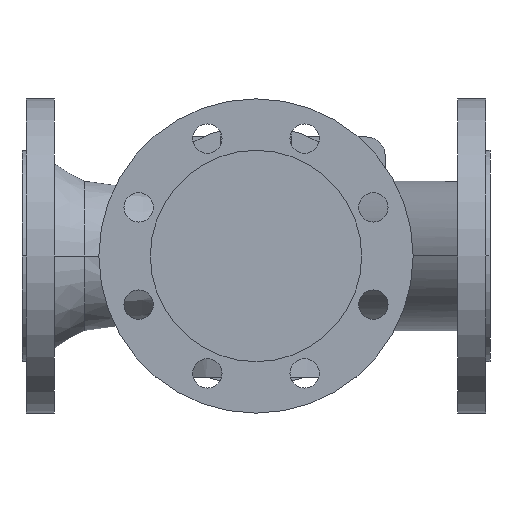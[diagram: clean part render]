
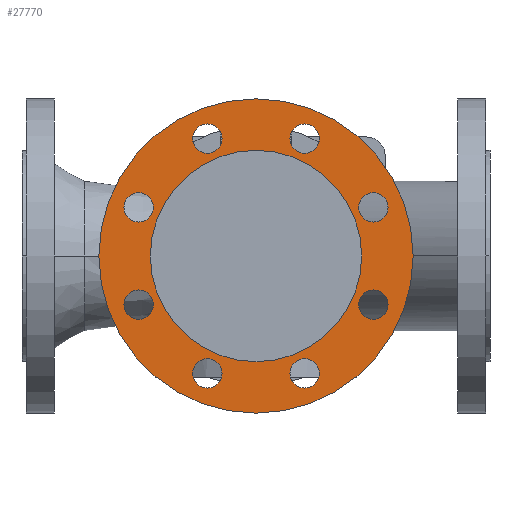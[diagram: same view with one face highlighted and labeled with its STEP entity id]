
A CAD part, front view. The second image highlights one B-rep face of the part: STEP entity #27770.
In plain terms, the highlighted planar face has unit normal (0, -1, 0).
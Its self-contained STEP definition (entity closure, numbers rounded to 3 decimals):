
#4020=CARTESIAN_POINT('',(254.,-147.,0.));
#4030=VERTEX_POINT('',#4020);
#4080=CARTESIAN_POINT('',(175.,-147.,0.));
#4090=DIRECTION('',(0.,-1.,0.));
#4100=DIRECTION('',(1.,0.,0.));
#4110=AXIS2_PLACEMENT_3D('',#4080,#4090,#4100);
#4120=CIRCLE('',#4110,79.);
#4130=CARTESIAN_POINT('',(96.,-147.,0.));
#4140=VERTEX_POINT('',#4130);
#4150=EDGE_CURVE('',#4140,#4030,#4120,.T.);
#11130=CARTESIAN_POINT('',(57.5,-147.,0.));
#11140=VERTEX_POINT('',#11130);
#11170=CARTESIAN_POINT('',(175.,-147.,0.));
#11180=DIRECTION('',(0.,1.,0.));
#11190=DIRECTION('',(1.,0.,0.));
#11200=AXIS2_PLACEMENT_3D('',#11170,#11180,#11190);
#11210=CIRCLE('',#11200,117.5);
#11220=CARTESIAN_POINT('',(292.5,-147.,0.));
#11230=VERTEX_POINT('',#11220);
#11240=EDGE_CURVE('',#11230,#11140,#11210,.T.);
#11550=CARTESIAN_POINT('',(273.769,-147.,-36.355));
#11560=VERTEX_POINT('',#11550);
#11590=CARTESIAN_POINT('',(262.769,-147.,-36.355));
#11600=DIRECTION('',(0.,1.,0.));
#11610=DIRECTION('',(1.,0.,0.));
#11620=AXIS2_PLACEMENT_3D('',#11590,#11600,#11610);
#11630=CIRCLE('',#11620,11.);
#11640=CARTESIAN_POINT('',(251.769,-147.,-36.355));
#11650=VERTEX_POINT('',#11640);
#11660=EDGE_CURVE('',#11560,#11650,#11630,.T.);
#11970=CARTESIAN_POINT('',(273.769,-147.,36.355));
#11980=VERTEX_POINT('',#11970);
#12140=CARTESIAN_POINT('',(251.769,-147.,36.355));
#12150=VERTEX_POINT('',#12140);
#12180=CARTESIAN_POINT('',(262.769,-147.,36.355));
#12190=DIRECTION('',(0.,1.,0.));
#12200=DIRECTION('',(1.,0.,0.));
#12210=AXIS2_PLACEMENT_3D('',#12180,#12190,#12200);
#12220=CIRCLE('',#12210,11.);
#12230=EDGE_CURVE('',#12150,#11980,#12220,.T.);
#12390=CARTESIAN_POINT('',(200.355,-147.,-87.769));
#12400=VERTEX_POINT('',#12390);
#12430=CARTESIAN_POINT('',(211.355,-147.,-87.769));
#12440=DIRECTION('',(0.,1.,0.));
#12450=DIRECTION('',(1.,0.,0.));
#12460=AXIS2_PLACEMENT_3D('',#12430,#12440,#12450);
#12470=CIRCLE('',#12460,11.);
#12480=CARTESIAN_POINT('',(222.355,-147.,-87.769));
#12490=VERTEX_POINT('',#12480);
#12500=EDGE_CURVE('',#12400,#12490,#12470,.T.);
#12810=CARTESIAN_POINT('',(222.355,-147.,87.769));
#12820=VERTEX_POINT('',#12810);
#12980=CARTESIAN_POINT('',(200.355,-147.,87.769));
#12990=VERTEX_POINT('',#12980);
#13020=CARTESIAN_POINT('',(211.355,-147.,87.769));
#13030=DIRECTION('',(0.,1.,0.));
#13040=DIRECTION('',(1.,0.,0.));
#13050=AXIS2_PLACEMENT_3D('',#13020,#13030,#13040);
#13060=CIRCLE('',#13050,11.);
#13070=EDGE_CURVE('',#12990,#12820,#13060,.T.);
#13230=CARTESIAN_POINT('',(149.645,-147.,-87.769));
#13240=VERTEX_POINT('',#13230);
#13400=CARTESIAN_POINT('',(127.645,-147.,-87.769));
#13410=VERTEX_POINT('',#13400);
#13440=CARTESIAN_POINT('',(138.645,-147.,-87.769));
#13450=DIRECTION('',(0.,1.,0.));
#13460=DIRECTION('',(1.,0.,0.));
#13470=AXIS2_PLACEMENT_3D('',#13440,#13450,#13460);
#13480=CIRCLE('',#13470,11.);
#13490=EDGE_CURVE('',#13410,#13240,#13480,.T.);
#13650=CARTESIAN_POINT('',(127.645,-147.,87.769));
#13660=VERTEX_POINT('',#13650);
#13820=CARTESIAN_POINT('',(149.645,-147.,87.769));
#13830=VERTEX_POINT('',#13820);
#13860=CARTESIAN_POINT('',(138.645,-147.,87.769));
#13870=DIRECTION('',(0.,1.,0.));
#13880=DIRECTION('',(1.,0.,0.));
#13890=AXIS2_PLACEMENT_3D('',#13860,#13870,#13880);
#13900=CIRCLE('',#13890,11.);
#13910=EDGE_CURVE('',#13830,#13660,#13900,.T.);
#14070=CARTESIAN_POINT('',(98.231,-147.,-36.355));
#14080=VERTEX_POINT('',#14070);
#14240=CARTESIAN_POINT('',(76.231,-147.,-36.355));
#14250=VERTEX_POINT('',#14240);
#14280=CARTESIAN_POINT('',(87.231,-147.,-36.355));
#14290=DIRECTION('',(0.,1.,0.));
#14300=DIRECTION('',(1.,0.,0.));
#14310=AXIS2_PLACEMENT_3D('',#14280,#14290,#14300);
#14320=CIRCLE('',#14310,11.);
#14330=EDGE_CURVE('',#14250,#14080,#14320,.T.);
#14490=CARTESIAN_POINT('',(98.231,-147.,36.355));
#14500=VERTEX_POINT('',#14490);
#14530=CARTESIAN_POINT('',(87.231,-147.,36.355));
#14540=DIRECTION('',(0.,1.,0.));
#14550=DIRECTION('',(1.,0.,0.));
#14560=AXIS2_PLACEMENT_3D('',#14530,#14540,#14550);
#14570=CIRCLE('',#14560,11.);
#14580=CARTESIAN_POINT('',(76.231,-147.,36.355));
#14590=VERTEX_POINT('',#14580);
#14600=EDGE_CURVE('',#14500,#14590,#14570,.T.);
#27220=CARTESIAN_POINT('',(175.,-147.,0.));
#27230=DIRECTION('',(0.,1.,0.));
#27240=DIRECTION('',(0.,0.,1.));
#27250=AXIS2_PLACEMENT_3D('',#27220,#27230,#27240);
#27260=PLANE('',#27250);
#27270=EDGE_CURVE('',#14590,#14500,#14570,.T.);
#27280=ORIENTED_EDGE('',*,*,#27270,.T.);
#27290=ORIENTED_EDGE('',*,*,#14600,.T.);
#27300=EDGE_LOOP('',(#27290,#27280));
#27310=FACE_BOUND('',#27300,.T.);
#27320=EDGE_CURVE('',#14080,#14250,#14320,.T.);
#27330=ORIENTED_EDGE('',*,*,#27320,.T.);
#27340=ORIENTED_EDGE('',*,*,#14330,.T.);
#27350=EDGE_LOOP('',(#27340,#27330));
#27360=FACE_BOUND('',#27350,.T.);
#27370=EDGE_CURVE('',#13660,#13830,#13900,.T.);
#27380=ORIENTED_EDGE('',*,*,#27370,.T.);
#27390=ORIENTED_EDGE('',*,*,#13910,.T.);
#27400=EDGE_LOOP('',(#27390,#27380));
#27410=FACE_BOUND('',#27400,.T.);
#27420=EDGE_CURVE('',#13240,#13410,#13480,.T.);
#27430=ORIENTED_EDGE('',*,*,#27420,.T.);
#27440=ORIENTED_EDGE('',*,*,#13490,.T.);
#27450=EDGE_LOOP('',(#27440,#27430));
#27460=FACE_BOUND('',#27450,.T.);
#27470=EDGE_CURVE('',#12820,#12990,#13060,.T.);
#27480=ORIENTED_EDGE('',*,*,#27470,.T.);
#27490=ORIENTED_EDGE('',*,*,#13070,.T.);
#27500=EDGE_LOOP('',(#27490,#27480));
#27510=FACE_BOUND('',#27500,.T.);
#27520=ORIENTED_EDGE('',*,*,#12500,.T.);
#27530=EDGE_CURVE('',#12490,#12400,#12470,.T.);
#27540=ORIENTED_EDGE('',*,*,#27530,.T.);
#27550=EDGE_LOOP('',(#27540,#27520));
#27560=FACE_BOUND('',#27550,.T.);
#27570=EDGE_CURVE('',#11980,#12150,#12220,.T.);
#27580=ORIENTED_EDGE('',*,*,#27570,.T.);
#27590=ORIENTED_EDGE('',*,*,#12230,.T.);
#27600=EDGE_LOOP('',(#27590,#27580));
#27610=FACE_BOUND('',#27600,.T.);
#27620=ORIENTED_EDGE('',*,*,#11660,.T.);
#27630=EDGE_CURVE('',#11650,#11560,#11630,.T.);
#27640=ORIENTED_EDGE('',*,*,#27630,.T.);
#27650=EDGE_LOOP('',(#27640,#27620));
#27660=FACE_BOUND('',#27650,.T.);
#27670=EDGE_CURVE('',#11140,#11230,#11210,.T.);
#27680=ORIENTED_EDGE('',*,*,#27670,.F.);
#27690=ORIENTED_EDGE('',*,*,#11240,.F.);
#27700=EDGE_LOOP('',(#27690,#27680));
#27710=FACE_OUTER_BOUND('',#27700,.T.);
#27720=EDGE_CURVE('',#4030,#4140,#4120,.T.);
#27730=ORIENTED_EDGE('',*,*,#27720,.F.);
#27740=ORIENTED_EDGE('',*,*,#4150,.F.);
#27750=EDGE_LOOP('',(#27740,#27730));
#27760=FACE_BOUND('',#27750,.T.);
#27770=ADVANCED_FACE('',(#27310,#27360,#27410,#27460,#27510,#27560,
#27610,#27660,#27710,#27760),#27260,.F.);
